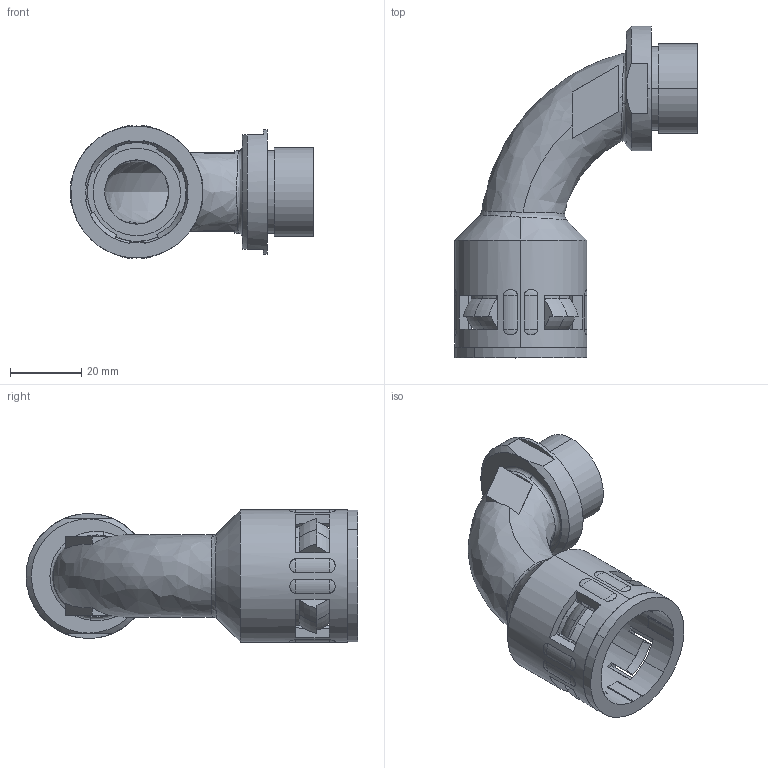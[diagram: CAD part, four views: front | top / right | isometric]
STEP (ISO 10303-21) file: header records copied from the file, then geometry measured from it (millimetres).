
FILE_DESCRIPTION (( 'STEP AP203' ), '1' );
FILE_NAME ('WQBW-M25-AD28.5.STEP', '2018-09-21T02:04:52', ( '' ), ( '' ), 'SwSTEP 2.0', 'SolidWorks 2016', '' );
FILE_SCHEMA (( 'CONFIG_CONTROL_DESIGN' ));
Length unit declared in the file: millimetre
Products named in the file (4): NSK-AD28.5; WQBW-M25-AD28.5; GFD-AD28.5
Assembly tree (3 placements, depth 2):
  WQBW-M25-AD28.5
    WQBW-M25-AD28.5
    GFD-AD28.5
    NSK-AD28.5
Bounding box: 68.05 x 93 x 37.1 mm (x, y, z)
Volume: 31131.6 mm3; surface area: 26933 mm2
Topology: 3 solids, 4 shells, 311 faces, 834 edges, 532 vertices
Faces by surface type: plane 143, cylinder 66, cone 48, torus 28, sphere 16, bspline 10
Entity records: 12419 total; most frequent: CARTESIAN_POINT 4364, DIRECTION 1622, ORIENTED_EDGE 1604, EDGE_CURVE 802, AXIS2_PLACEMENT_3D 631, VERTEX_POINT 516, VECTOR 360, LINE 360
